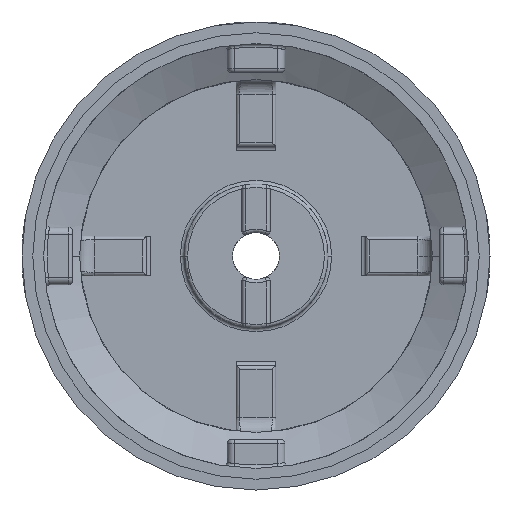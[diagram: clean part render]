
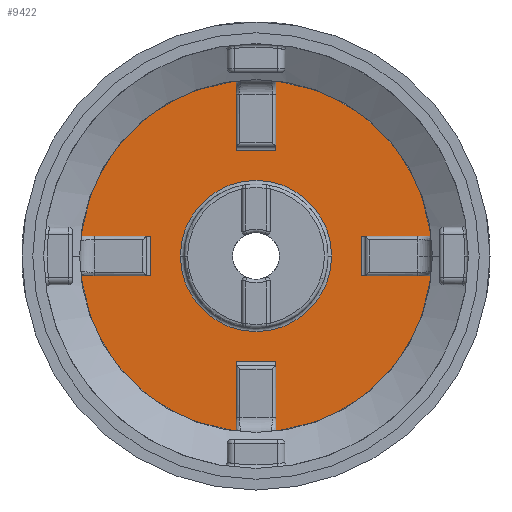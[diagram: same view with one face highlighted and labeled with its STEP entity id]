
A CAD part, front view. The second image highlights one B-rep face of the part: STEP entity #9422.
In plain terms, the highlighted planar face has unit normal (0, -1, 0).
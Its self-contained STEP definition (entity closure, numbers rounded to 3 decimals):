
#112 = EDGE_LOOP ( 'NONE', ( #5451, #4947 ) ) ;
#187 = VERTEX_POINT ( 'NONE', #7827 ) ;
#192 = VERTEX_POINT ( 'NONE', #8165 ) ;
#209 = VERTEX_POINT ( 'NONE', #7768 ) ;
#228 = VERTEX_POINT ( 'NONE', #7968 ) ;
#232 = VERTEX_POINT ( 'NONE', #8053 ) ;
#234 = VERTEX_POINT ( 'NONE', #7775 ) ;
#238 = VERTEX_POINT ( 'NONE', #7870 ) ;
#248 = VERTEX_POINT ( 'NONE', #7864 ) ;
#277 = VERTEX_POINT ( 'NONE', #8069 ) ;
#287 = VERTEX_POINT ( 'NONE', #7856 ) ;
#291 = VERTEX_POINT ( 'NONE', #8205 ) ;
#781 = DIRECTION ( 'NONE',  ( -1., 0., 0. ) ) ;
#985 = PLANE ( 'NONE',  #2782 ) ;
#1362 = DIRECTION ( 'NONE',  ( 0., 1., 0. ) ) ;
#1386 = CARTESIAN_POINT ( 'NONE',  ( 24.5, 16.75, 0. ) ) ;
#1706 = FACE_BOUND ( 'NONE', #112, .T. ) ;
#1902 = FACE_OUTER_BOUND ( 'NONE', #5120, .T. ) ;
#2217 = EDGE_CURVE ( 'NONE', #232, #209, #3182, .T. ) ;
#2226 = AXIS2_PLACEMENT_3D ( 'NONE', #7077, #7030, #7027 ) ;
#2236 = EDGE_CURVE ( 'NONE', #277, #248, #3237, .T. ) ;
#2292 = AXIS2_PLACEMENT_3D ( 'NONE', #6891, #6893, #6892 ) ;
#2306 = EDGE_CURVE ( 'NONE', #8167, #7960, #3508, .T. ) ;
#2363 = AXIS2_PLACEMENT_3D ( 'NONE', #6403, #6382, #6475 ) ;
#2377 = AXIS2_PLACEMENT_3D ( 'NONE', #6173, #6062, #6251 ) ;
#2422 = EDGE_CURVE ( 'NONE', #8125, #8087, #3546, .T. ) ;
#2555 = EDGE_CURVE ( 'NONE', #8191, #7756, #9361, .T. ) ;
#2558 = AXIS2_PLACEMENT_3D ( 'NONE', #7507, #7462, #7463 ) ;
#2665 = EDGE_CURVE ( 'NONE', #7813, #228, #8808, .T. ) ;
#2729 = EDGE_CURVE ( 'NONE', #228, #291, #9109, .T. ) ;
#2745 = AXIS2_PLACEMENT_3D ( 'NONE', #7146, #7141, #7142 ) ;
#2750 = EDGE_CURVE ( 'NONE', #277, #7813, #8985, .T. ) ;
#2761 = EDGE_CURVE ( 'NONE', #209, #187, #8973, .T. ) ;
#2764 = EDGE_CURVE ( 'NONE', #287, #291, #9310, .T. ) ;
#2768 = EDGE_CURVE ( 'NONE', #7960, #8167, #9309, .T. ) ;
#2769 = EDGE_CURVE ( 'NONE', #287, #232, #8833, .T. ) ;
#2772 = EDGE_CURVE ( 'NONE', #7756, #248, #9312, .T. ) ;
#2773 = EDGE_CURVE ( 'NONE', #8087, #234, #9165, .T. ) ;
#2774 = EDGE_CURVE ( 'NONE', #238, #8191, #8730, .T. ) ;
#2776 = EDGE_CURVE ( 'NONE', #192, #8125, #9358, .T. ) ;
#2777 = EDGE_CURVE ( 'NONE', #238, #234, #9348, .T. ) ;
#2779 = EDGE_CURVE ( 'NONE', #192, #187, #8934, .T. ) ;
#2782 = AXIS2_PLACEMENT_3D ( 'NONE', #1386, #1362, #781 ) ;
#3182 = CIRCLE ( 'NONE', #2377, 24.5 ) ;
#3237 = LINE ( 'NONE', #6088, #3582 ) ;
#3508 = CIRCLE ( 'NONE', #2363, 10.5 ) ;
#3546 = CIRCLE ( 'NONE', #2292, 24.5 ) ;
#3582 = VECTOR ( 'NONE', #6118, 1000. ) ;
#4892 = ORIENTED_EDGE ( 'NONE', *, *, #2555, .F. ) ;
#4930 = ORIENTED_EDGE ( 'NONE', *, *, #2779, .T. ) ;
#4932 = ORIENTED_EDGE ( 'NONE', *, *, #2422, .F. ) ;
#4947 = ORIENTED_EDGE ( 'NONE', *, *, #2306, .T. ) ;
#4979 = ORIENTED_EDGE ( 'NONE', *, *, #2236, .T. ) ;
#4997 = ORIENTED_EDGE ( 'NONE', *, *, #2773, .F. ) ;
#5017 = ORIENTED_EDGE ( 'NONE', *, *, #2665, .F. ) ;
#5120 = EDGE_LOOP ( 'NONE', ( #5689, #5488, #5371, #5017, #5413, #4979, #5742, #4892, #5566, #5737, #4997, #4932, #5539, #4930, #5484, #5680 ) ) ;
#5371 = ORIENTED_EDGE ( 'NONE', *, *, #2729, .F. ) ;
#5413 = ORIENTED_EDGE ( 'NONE', *, *, #2750, .F. ) ;
#5451 = ORIENTED_EDGE ( 'NONE', *, *, #2768, .T. ) ;
#5484 = ORIENTED_EDGE ( 'NONE', *, *, #2761, .F. ) ;
#5488 = ORIENTED_EDGE ( 'NONE', *, *, #2764, .T. ) ;
#5539 = ORIENTED_EDGE ( 'NONE', *, *, #2776, .F. ) ;
#5566 = ORIENTED_EDGE ( 'NONE', *, *, #2774, .F. ) ;
#5680 = ORIENTED_EDGE ( 'NONE', *, *, #2217, .F. ) ;
#5689 = ORIENTED_EDGE ( 'NONE', *, *, #2769, .F. ) ;
#5737 = ORIENTED_EDGE ( 'NONE', *, *, #2777, .T. ) ;
#5742 = ORIENTED_EDGE ( 'NONE', *, *, #2772, .F. ) ;
#6062 = DIRECTION ( 'NONE',  ( 0., 1., 0. ) ) ;
#6088 = CARTESIAN_POINT ( 'NONE',  ( -14.7, 16.75, -2.75 ) ) ;
#6118 = DIRECTION ( 'NONE',  ( 0., 0., -1. ) ) ;
#6173 = CARTESIAN_POINT ( 'NONE',  ( 0., 16.75, 0. ) ) ;
#6251 = DIRECTION ( 'NONE',  ( -1., 0., 0. ) ) ;
#6382 = DIRECTION ( 'NONE',  ( 0., 1., 0. ) ) ;
#6403 = CARTESIAN_POINT ( 'NONE',  ( 0., 16.75, 0. ) ) ;
#6475 = DIRECTION ( 'NONE',  ( -1., 0., 0. ) ) ;
#6720 = CARTESIAN_POINT ( 'NONE',  ( -2.75, 16.75, -24.345 ) ) ;
#6760 = CARTESIAN_POINT ( 'NONE',  ( 10.5, 16.75, 0. ) ) ;
#6785 = CARTESIAN_POINT ( 'NONE',  ( 24.345, 16.75, -2.75 ) ) ;
#6794 = CARTESIAN_POINT ( 'NONE',  ( 2.75, 16.75, -24.345 ) ) ;
#6803 = CARTESIAN_POINT ( 'NONE',  ( -10.5, 16.75, 0. ) ) ;
#6891 = CARTESIAN_POINT ( 'NONE',  ( 0., 16.75, 0. ) ) ;
#6892 = DIRECTION ( 'NONE',  ( -1., 0., 0. ) ) ;
#6893 = DIRECTION ( 'NONE',  ( 0., 1., 0. ) ) ;
#7027 = DIRECTION ( 'NONE',  ( -1., 0., 0. ) ) ;
#7030 = DIRECTION ( 'NONE',  ( 0., 1., 0. ) ) ;
#7077 = CARTESIAN_POINT ( 'NONE',  ( 0., 16.75, 0. ) ) ;
#7141 = DIRECTION ( 'NONE',  ( 0., 1., 0. ) ) ;
#7142 = DIRECTION ( 'NONE',  ( -1., 0., 0. ) ) ;
#7146 = CARTESIAN_POINT ( 'NONE',  ( 0., 16.75, 0. ) ) ;
#7323 = CARTESIAN_POINT ( 'NONE',  ( -2.75, 16.75, 24.345 ) ) ;
#7324 = DIRECTION ( 'NONE',  ( 0., 0., -1. ) ) ;
#7399 = CARTESIAN_POINT ( 'NONE',  ( -24.345, 16.75, 2.75 ) ) ;
#7420 = CARTESIAN_POINT ( 'NONE',  ( -2.75, 16.75, -15.2 ) ) ;
#7421 = DIRECTION ( 'NONE',  ( 0., 0., 1. ) ) ;
#7422 = DIRECTION ( 'NONE',  ( 1., 0., 0. ) ) ;
#7424 = DIRECTION ( 'NONE',  ( 1., 0., 0. ) ) ;
#7427 = DIRECTION ( 'NONE',  ( 0., 0., 1. ) ) ;
#7428 = CARTESIAN_POINT ( 'NONE',  ( 14.7, 16.75, 2.75 ) ) ;
#7436 = CARTESIAN_POINT ( 'NONE',  ( -24.345, 16.75, -2.75 ) ) ;
#7459 = CARTESIAN_POINT ( 'NONE',  ( 2.75, 16.75, -14.7 ) ) ;
#7461 = DIRECTION ( 'NONE',  ( 0., 0., -1. ) ) ;
#7462 = DIRECTION ( 'NONE',  ( 0., 1., 0. ) ) ;
#7463 = DIRECTION ( 'NONE',  ( -1., 0., 0. ) ) ;
#7464 = CARTESIAN_POINT ( 'NONE',  ( 2.75, 16.75, 15.2 ) ) ;
#7465 = DIRECTION ( 'NONE',  ( 0., 0., 1. ) ) ;
#7466 = CARTESIAN_POINT ( 'NONE',  ( 15.2, 16.75, -2.75 ) ) ;
#7467 = DIRECTION ( 'NONE',  ( 1., 0., 0. ) ) ;
#7468 = CARTESIAN_POINT ( 'NONE',  ( 2.75, 16.75, -24.345 ) ) ;
#7505 = CARTESIAN_POINT ( 'NONE',  ( -24.345, 16.75, -2.75 ) ) ;
#7507 = CARTESIAN_POINT ( 'NONE',  ( 0., 16.75, 0. ) ) ;
#7508 = CARTESIAN_POINT ( 'NONE',  ( -15.2, 16.75, 2.75 ) ) ;
#7509 = DIRECTION ( 'NONE',  ( -1., 0., 0. ) ) ;
#7510 = CARTESIAN_POINT ( 'NONE',  ( -2.75, 16.75, 14.7 ) ) ;
#7512 = CARTESIAN_POINT ( 'NONE',  ( 24.345, 16.75, 2.75 ) ) ;
#7514 = DIRECTION ( 'NONE',  ( -1., 0., 0. ) ) ;
#7515 = DIRECTION ( 'NONE',  ( -1., 0., 0. ) ) ;
#7756 = VERTEX_POINT ( 'NONE', #7436 ) ;
#7768 = CARTESIAN_POINT ( 'NONE',  ( 24.345, 16.75, 2.75 ) ) ;
#7775 = CARTESIAN_POINT ( 'NONE',  ( 2.75, 16.75, -14.7 ) ) ;
#7813 = VERTEX_POINT ( 'NONE', #7399 ) ;
#7827 = CARTESIAN_POINT ( 'NONE',  ( 14.7, 16.75, 2.75 ) ) ;
#7856 = CARTESIAN_POINT ( 'NONE',  ( 2.75, 16.75, 14.7 ) ) ;
#7864 = CARTESIAN_POINT ( 'NONE',  ( -14.7, 16.75, -2.75 ) ) ;
#7870 = CARTESIAN_POINT ( 'NONE',  ( -2.75, 16.75, -14.7 ) ) ;
#7960 = VERTEX_POINT ( 'NONE', #6803 ) ;
#7968 = CARTESIAN_POINT ( 'NONE',  ( -2.75, 16.75, 24.345 ) ) ;
#8053 = CARTESIAN_POINT ( 'NONE',  ( 2.75, 16.75, 24.345 ) ) ;
#8069 = CARTESIAN_POINT ( 'NONE',  ( -14.7, 16.75, 2.75 ) ) ;
#8087 = VERTEX_POINT ( 'NONE', #6794 ) ;
#8125 = VERTEX_POINT ( 'NONE', #6785 ) ;
#8165 = CARTESIAN_POINT ( 'NONE',  ( 14.7, 16.75, -2.75 ) ) ;
#8167 = VERTEX_POINT ( 'NONE', #6760 ) ;
#8191 = VERTEX_POINT ( 'NONE', #6720 ) ;
#8205 = CARTESIAN_POINT ( 'NONE',  ( -2.75, 16.75, 14.7 ) ) ;
#8730 = LINE ( 'NONE', #7420, #9322 ) ;
#8746 = VECTOR ( 'NONE', #7324, 1000. ) ;
#8785 = VECTOR ( 'NONE', #7465, 1000. ) ;
#8808 = CIRCLE ( 'NONE', #2745, 24.5 ) ;
#8833 = LINE ( 'NONE', #7464, #8785 ) ;
#8852 = VECTOR ( 'NONE', #7427, 1000. ) ;
#8920 = VECTOR ( 'NONE', #7422, 1000. ) ;
#8934 = LINE ( 'NONE', #7428, #8852 ) ;
#8973 = LINE ( 'NONE', #7512, #9271 ) ;
#8985 = LINE ( 'NONE', #7508, #9238 ) ;
#9011 = VECTOR ( 'NONE', #7467, 1000. ) ;
#9109 = LINE ( 'NONE', #7323, #8746 ) ;
#9124 = VECTOR ( 'NONE', #7514, 1000. ) ;
#9165 = LINE ( 'NONE', #7468, #9289 ) ;
#9238 = VECTOR ( 'NONE', #7509, 1000. ) ;
#9271 = VECTOR ( 'NONE', #7515, 1000. ) ;
#9289 = VECTOR ( 'NONE', #7421, 1000. ) ;
#9309 = CIRCLE ( 'NONE', #2558, 10.5 ) ;
#9310 = LINE ( 'NONE', #7510, #9124 ) ;
#9312 = LINE ( 'NONE', #7505, #9011 ) ;
#9322 = VECTOR ( 'NONE', #7461, 1000. ) ;
#9348 = LINE ( 'NONE', #7459, #8920 ) ;
#9358 = LINE ( 'NONE', #7466, #9362 ) ;
#9361 = CIRCLE ( 'NONE', #2226, 24.5 ) ;
#9362 = VECTOR ( 'NONE', #7424, 1000. ) ;
#9422 = ADVANCED_FACE ( 'NONE', ( #1706, #1902 ), #985, .F. ) ;
